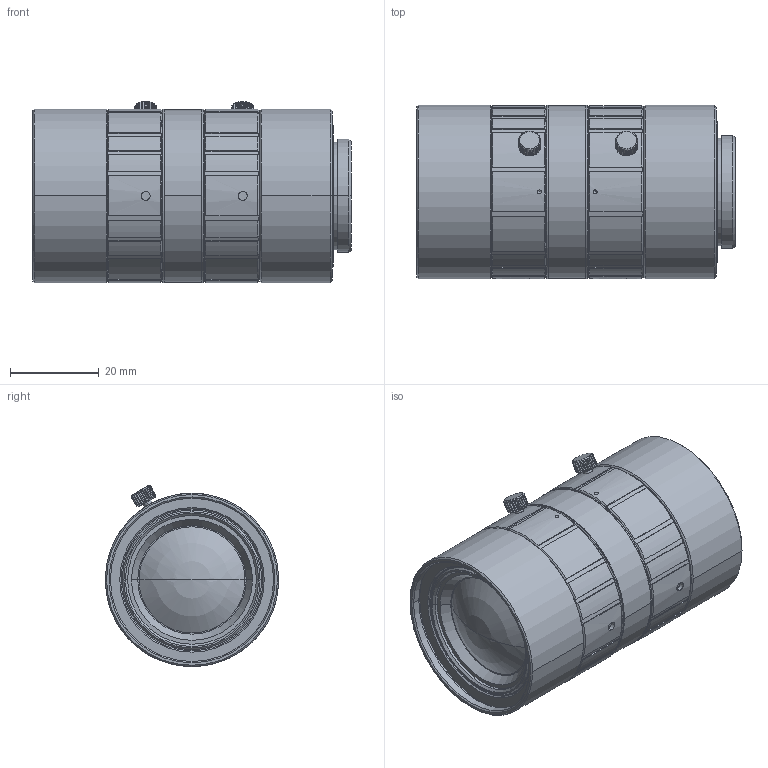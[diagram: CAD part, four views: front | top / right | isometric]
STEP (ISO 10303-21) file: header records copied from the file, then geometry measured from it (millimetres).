
FILE_DESCRIPTION(('LS-FFL-0082'),'2;1');
FILE_NAME('LS-FFL-0082.stp','2026-10-15T21:51:14',('LumaSpec Vision'),('LumaSpec Vision'),'LumaSpec Vision','LumaSpec Vision','');
FILE_SCHEMA(('AUTOMOTIVE_DESIGN { 1 0 10303 214 1 1 1 1 }'));
Products named in the file (1): LS-FFL-0082
Bounding box: 71.57 x 39 x 40.74 mm (x, y, z)
Volume: 78515.6 mm3; surface area: 12210.7 mm2
Topology: 1 solids, 3 shells, 375 faces, 1040 edges, 691 vertices
Faces by surface type: plane 203, cylinder 124, cone 46, sphere 2
Entity records: 43193 total; most frequent: CARTESIAN_POINT 24555, DIRECTION 2846, ORIENTED_EDGE 2068, PCURVE 2068, DEFINITIONAL_REPRESENTATION 2068, LINE 1489, VECTOR 1489, B_SPLINE_CURVE_WITH_KNOTS 1241
